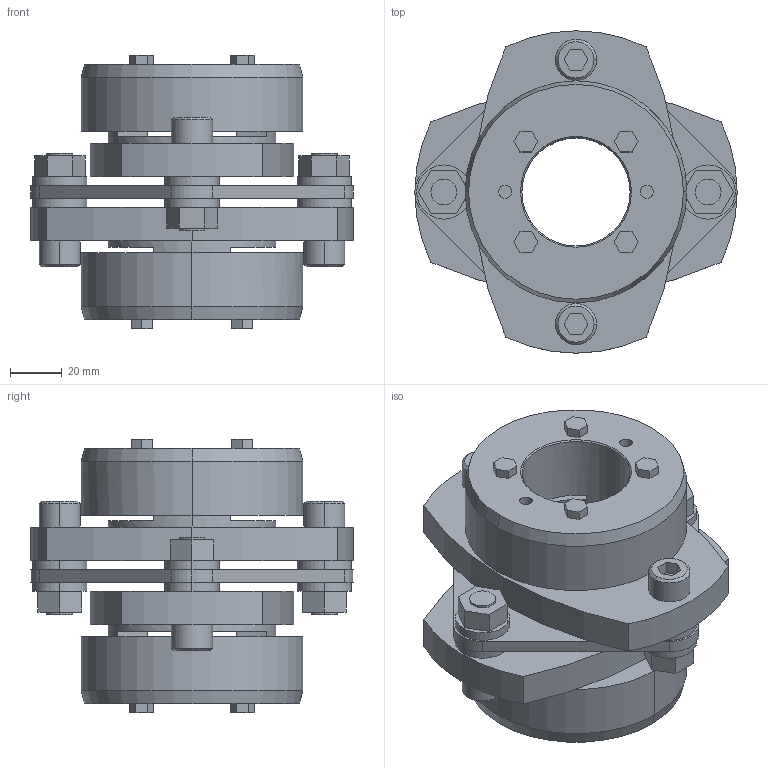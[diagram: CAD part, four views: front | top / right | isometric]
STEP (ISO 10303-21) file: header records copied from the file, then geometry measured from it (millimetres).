
FILE_DESCRIPTION((''),'2;1');
FILE_NAME('LCS-125T7-42×42.stp','2011-09-07T10:03:29',(''),(''),'AutoCAD STEP 2000i','AutoCAD 2000i',', , ');
FILE_SCHEMA(('CONFIG_CONTROL_DESIGN'));
Length unit declared in the file: millimetre
Products named in the file (9): LCS-125T7-40×40; 忣兜1; LC125T7-T040-1; LC125T7-T040; LC125T7-T038; LC125T7-T035; LC125T7-T032-1; LC125T7-T032; LCS125-ITA
Assembly tree (8 placements, depth 2):
  LCS-125T7-40×40
    忣兜1
    LC125T7-T040-1
    LC125T7-T040
    LC125T7-T038
    LC125T7-T035
    LC125T7-T032-1
    LC125T7-T032
    LCS125-ITA
Bounding box: 125 x 125 x 106 mm (x, y, z)
Volume: 484209.5 mm3; surface area: 99164.3 mm2
Topology: 1 solids, 1 shells, 246 faces, 606 edges, 398 vertices
Faces by surface type: plane 146, cylinder 80, cone 20
Entity records: 7527 total; most frequent: DIRECTION 1314, CARTESIAN_POINT 1259, ORIENTED_EDGE 1212, EDGE_CURVE 606, AXIS2_PLACEMENT_3D 453, VECTOR 408, LINE 408, VERTEX_POINT 398
